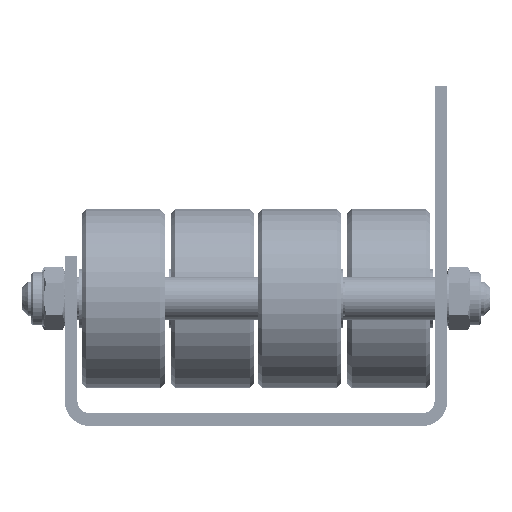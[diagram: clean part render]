
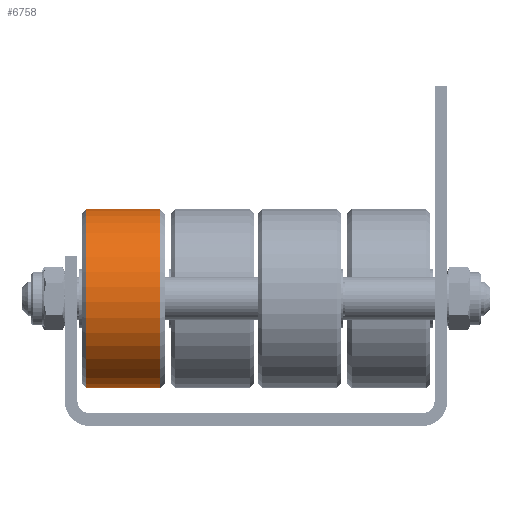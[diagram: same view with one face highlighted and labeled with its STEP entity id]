
A CAD part, front view. The second image highlights one B-rep face of the part: STEP entity #6758.
In plain terms, the highlighted cylindrical face has radius 21 mm (diameter 42 mm), a full revolution.
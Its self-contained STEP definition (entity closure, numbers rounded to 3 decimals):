
#2011=CYLINDRICAL_SURFACE('',#7829,21.);
#2406=CIRCLE('',#7830,21.);
#2407=CIRCLE('',#7831,21.);
#3385=ORIENTED_EDGE('',*,*,#4080,.T.);
#3386=ORIENTED_EDGE('',*,*,#4081,.T.);
#4080=EDGE_CURVE('',#4602,#4602,#2406,.F.);
#4081=EDGE_CURVE('',#4603,#4603,#2407,.T.);
#4602=VERTEX_POINT('',#12037);
#4603=VERTEX_POINT('',#12039);
#5603=EDGE_LOOP('',(#3385));
#5604=EDGE_LOOP('',(#3386));
#6385=FACE_BOUND('',#5603,.T.);
#6386=FACE_BOUND('',#5604,.T.);
#6758=ADVANCED_FACE('',(#6385,#6386),#2011,.T.);
#7829=AXIS2_PLACEMENT_3D('',#12035,#9666,#9667);
#7830=AXIS2_PLACEMENT_3D('',#12036,#9668,#9669);
#7831=AXIS2_PLACEMENT_3D('',#12038,#9670,#9671);
#9666=DIRECTION('',(0.,1.,0.));
#9667=DIRECTION('',(0.,0.,1.));
#9668=DIRECTION('',(0.,1.,0.));
#9669=DIRECTION('',(0.,0.,1.));
#9670=DIRECTION('',(0.,1.,0.));
#9671=DIRECTION('',(0.,0.,1.));
#12035=CARTESIAN_POINT('',(0.,-9.75,0.));
#12036=CARTESIAN_POINT('',(0.,8.75,0.));
#12037=CARTESIAN_POINT('',(0.,8.75,21.));
#12038=CARTESIAN_POINT('',(0.,-8.75,0.));
#12039=CARTESIAN_POINT('',(0.,-8.75,21.));
